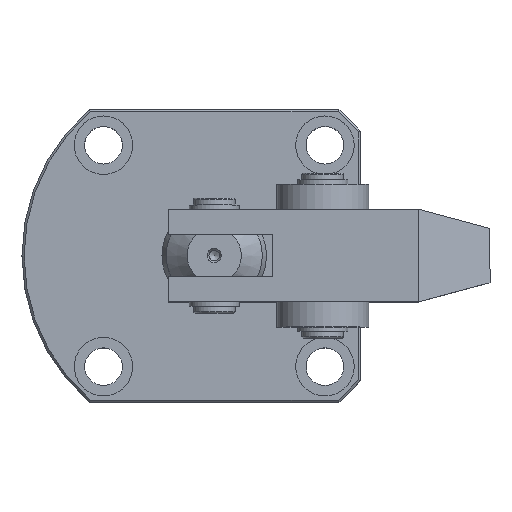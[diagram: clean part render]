
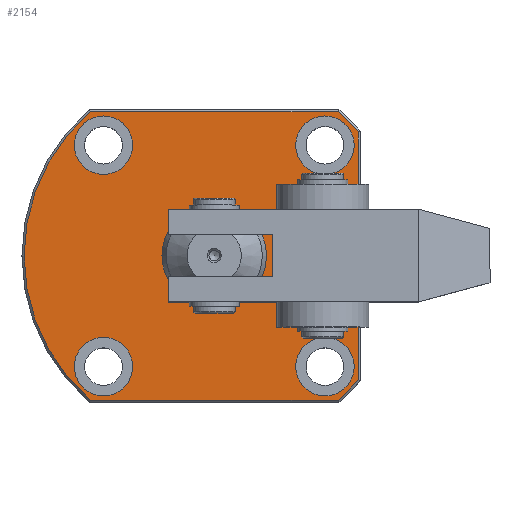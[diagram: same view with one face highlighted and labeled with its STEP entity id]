
A CAD part, top view. The second image highlights one B-rep face of the part: STEP entity #2154.
In plain terms, the highlighted planar face has unit normal (0, 0, 1).
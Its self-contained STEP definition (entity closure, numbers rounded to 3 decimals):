
#126=LINE('',#3536,#239);
#127=LINE('',#3545,#240);
#128=LINE('',#3559,#241);
#130=LINE('',#3563,#243);
#131=LINE('',#3577,#244);
#132=LINE('',#3580,#245);
#133=LINE('',#3581,#246);
#239=VECTOR('',#2821,1000.);
#240=VECTOR('',#2828,1000.);
#241=VECTOR('',#2835,1000.);
#243=VECTOR('',#2837,1000.);
#244=VECTOR('',#2856,1000.);
#245=VECTOR('',#2857,1000.);
#246=VECTOR('',#2858,1000.);
#375=PLANE('',#2436);
#576=ORIENTED_EDGE('',*,*,#951,.T.);
#577=ORIENTED_EDGE('',*,*,#1029,.F.);
#578=ORIENTED_EDGE('',*,*,#1028,.F.);
#579=ORIENTED_EDGE('',*,*,#1027,.F.);
#580=ORIENTED_EDGE('',*,*,#1026,.F.);
#581=ORIENTED_EDGE('',*,*,#1030,.T.);
#582=ORIENTED_EDGE('',*,*,#1031,.T.);
#583=ORIENTED_EDGE('',*,*,#1023,.T.);
#584=ORIENTED_EDGE('',*,*,#1022,.T.);
#585=ORIENTED_EDGE('',*,*,#1019,.T.);
#586=ORIENTED_EDGE('',*,*,#1017,.T.);
#587=ORIENTED_EDGE('',*,*,#1016,.T.);
#588=ORIENTED_EDGE('',*,*,#1014,.T.);
#589=ORIENTED_EDGE('',*,*,#1025,.T.);
#590=ORIENTED_EDGE('',*,*,#1032,.F.);
#951=EDGE_CURVE('',#1211,#1211,#1409,.T.);
#1014=EDGE_CURVE('',#1260,#1261,#1449,.T.);
#1016=EDGE_CURVE('',#1262,#1260,#126,.T.);
#1017=EDGE_CURVE('',#1263,#1262,#1450,.T.);
#1019=EDGE_CURVE('',#1264,#1263,#127,.T.);
#1022=EDGE_CURVE('',#1265,#1264,#1451,.T.);
#1023=EDGE_CURVE('',#1266,#1265,#128,.T.);
#1025=EDGE_CURVE('',#1261,#1267,#130,.T.);
#1026=EDGE_CURVE('',#1268,#1268,#1452,.T.);
#1027=EDGE_CURVE('',#1269,#1269,#1453,.T.);
#1028=EDGE_CURVE('',#1270,#1270,#1454,.T.);
#1029=EDGE_CURVE('',#1271,#1271,#1455,.T.);
#1030=EDGE_CURVE('',#1272,#1273,#131,.T.);
#1031=EDGE_CURVE('',#1273,#1266,#132,.T.);
#1032=EDGE_CURVE('',#1272,#1267,#133,.T.);
#1211=VERTEX_POINT('',#3352);
#1260=VERTEX_POINT('',#3523);
#1261=VERTEX_POINT('',#3528);
#1262=VERTEX_POINT('',#3535);
#1263=VERTEX_POINT('',#3539);
#1264=VERTEX_POINT('',#3546);
#1265=VERTEX_POINT('',#3556);
#1266=VERTEX_POINT('',#3560);
#1267=VERTEX_POINT('',#3562);
#1268=VERTEX_POINT('',#3566);
#1269=VERTEX_POINT('',#3569);
#1270=VERTEX_POINT('',#3572);
#1271=VERTEX_POINT('',#3575);
#1272=VERTEX_POINT('',#3578);
#1273=VERTEX_POINT('',#3579);
#1409=CIRCLE('',#2340,12.5);
#1449=CIRCLE('',#2420,45.5);
#1450=CIRCLE('',#2423,45.5);
#1451=CIRCLE('',#2426,45.5);
#1452=CIRCLE('',#2429,7.);
#1453=CIRCLE('',#2431,7.);
#1454=CIRCLE('',#2433,7.);
#1455=CIRCLE('',#2435,7.);
#1624=EDGE_LOOP('',(#576));
#1625=EDGE_LOOP('',(#577));
#1626=EDGE_LOOP('',(#578));
#1627=EDGE_LOOP('',(#579));
#1628=EDGE_LOOP('',(#580));
#1629=EDGE_LOOP('',(#581,#582,#583,#584,#585,#586,#587,#588,#589,#590));
#1879=FACE_BOUND('',#1624,.T.);
#1880=FACE_BOUND('',#1625,.T.);
#1881=FACE_BOUND('',#1626,.T.);
#1882=FACE_BOUND('',#1627,.T.);
#1883=FACE_BOUND('',#1628,.T.);
#1884=FACE_BOUND('',#1629,.T.);
#2154=ADVANCED_FACE('',(#1879,#1880,#1881,#1882,#1883,#1884),#375,.T.);
#2340=AXIS2_PLACEMENT_3D('',#3351,#2642,#2643);
#2420=AXIS2_PLACEMENT_3D('',#3529,#2817,#2818);
#2423=AXIS2_PLACEMENT_3D('',#3538,#2824,#2825);
#2426=AXIS2_PLACEMENT_3D('',#3557,#2831,#2832);
#2429=AXIS2_PLACEMENT_3D('',#3565,#2840,#2841);
#2431=AXIS2_PLACEMENT_3D('',#3568,#2844,#2845);
#2433=AXIS2_PLACEMENT_3D('',#3571,#2848,#2849);
#2435=AXIS2_PLACEMENT_3D('',#3574,#2852,#2853);
#2436=AXIS2_PLACEMENT_3D('',#3576,#2854,#2855);
#2642=DIRECTION('',(0.,0.,-1.));
#2643=DIRECTION('',(0.,-1.,0.));
#2817=DIRECTION('',(0.,0.,1.));
#2818=DIRECTION('',(0.,-1.,0.));
#2821=DIRECTION('',(1.,0.,0.));
#2824=DIRECTION('',(0.,0.,1.));
#2825=DIRECTION('',(0.,-1.,0.));
#2828=DIRECTION('',(-1.,0.,0.));
#2831=DIRECTION('',(0.,0.,1.));
#2832=DIRECTION('',(0.,-1.,0.));
#2835=DIRECTION('',(0.,1.,0.));
#2837=DIRECTION('',(0.,1.,0.));
#2840=DIRECTION('',(0.,0.,1.));
#2841=DIRECTION('',(1.,0.,0.));
#2844=DIRECTION('',(0.,0.,1.));
#2845=DIRECTION('',(1.,0.,0.));
#2848=DIRECTION('',(0.,0.,1.));
#2849=DIRECTION('',(1.,0.,0.));
#2852=DIRECTION('',(0.,0.,1.));
#2853=DIRECTION('',(1.,0.,0.));
#2854=DIRECTION('',(0.,0.,1.));
#2855=DIRECTION('',(0.,-1.,0.));
#2856=DIRECTION('',(0.,1.,0.));
#2857=DIRECTION('',(1.,0.,0.));
#2858=DIRECTION('',(1.,0.,0.));
#3351=CARTESIAN_POINT('',(-10.75,36.5,17.9));
#3352=CARTESIAN_POINT('',(-10.75,24.,17.9));
#3523=CARTESIAN_POINT('',(18.915,2.,17.9));
#3528=CARTESIAN_POINT('',(23.75,6.835,17.9));
#3529=CARTESIAN_POINT('',(-10.75,36.5,17.9));
#3535=CARTESIAN_POINT('',(-40.415,2.,17.9));
#3536=CARTESIAN_POINT('',(-10.75,2.,17.9));
#3538=CARTESIAN_POINT('',(-10.75,36.5,17.9));
#3539=CARTESIAN_POINT('',(-40.415,71.,17.9));
#3545=CARTESIAN_POINT('',(-10.75,71.,17.9));
#3546=CARTESIAN_POINT('',(18.915,71.,17.9));
#3556=CARTESIAN_POINT('',(23.75,66.165,17.9));
#3557=CARTESIAN_POINT('',(-10.75,36.5,17.9));
#3559=CARTESIAN_POINT('',(23.75,36.5,17.9));
#3560=CARTESIAN_POINT('',(23.75,47.6,17.9));
#3562=CARTESIAN_POINT('',(23.75,25.4,17.9));
#3563=CARTESIAN_POINT('',(23.75,36.5,17.9));
#3565=CARTESIAN_POINT('',(15.75,63.,17.9));
#3566=CARTESIAN_POINT('',(22.75,63.,17.9));
#3568=CARTESIAN_POINT('',(-37.25,63.,17.9));
#3569=CARTESIAN_POINT('',(-30.25,63.,17.9));
#3571=CARTESIAN_POINT('',(-37.25,10.,17.9));
#3572=CARTESIAN_POINT('',(-30.25,10.,17.9));
#3574=CARTESIAN_POINT('',(15.75,10.,17.9));
#3575=CARTESIAN_POINT('',(22.75,10.,17.9));
#3576=CARTESIAN_POINT('',(-10.75,36.5,17.9));
#3577=CARTESIAN_POINT('',(5.25,36.5,17.9));
#3578=CARTESIAN_POINT('',(5.25,25.4,17.9));
#3579=CARTESIAN_POINT('',(5.25,47.6,17.9));
#3580=CARTESIAN_POINT('',(5.25,47.6,17.9));
#3581=CARTESIAN_POINT('',(5.25,25.4,17.9));
